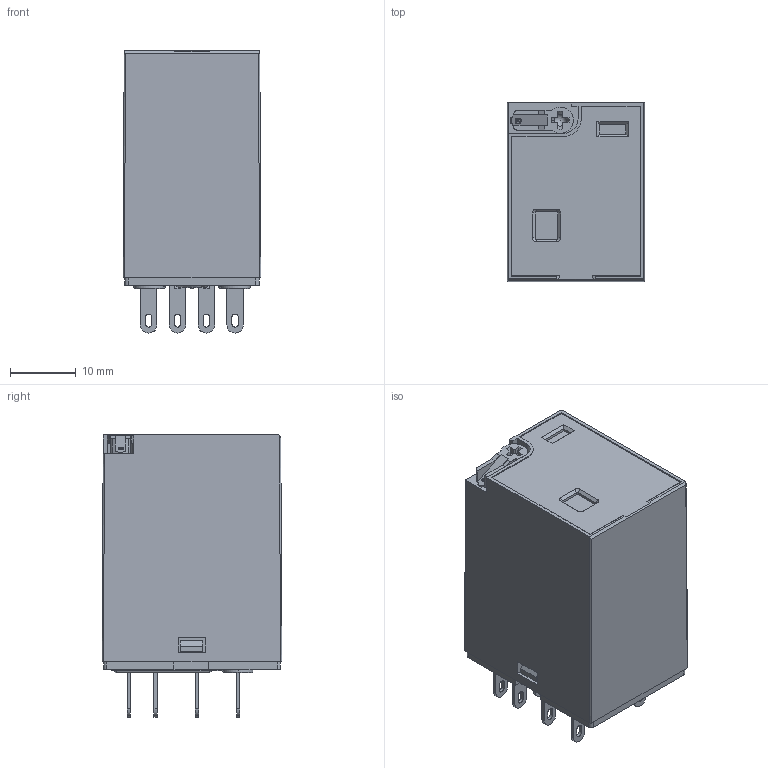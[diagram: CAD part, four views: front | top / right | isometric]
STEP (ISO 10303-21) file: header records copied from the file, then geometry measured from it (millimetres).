
FILE_DESCRIPTION (( 'STEP AP203' ), '1' );
FILE_NAME ('RKF4C 俋倛.STEP', '2023-01-14T07:16:39', ( '' ), ( '' ), 'SwSTEP 2.0', 'SolidWorks 2018', '' );
FILE_SCHEMA (( 'CONFIG_CONTROL_DESIGN' ));
Length unit declared in the file: millimetre
Products named in the file (1): RKF4C 俋倛
Bounding box: 21 x 27.4 x 43.05 mm (x, y, z)
Volume: 20176.8 mm3; surface area: 5872.5 mm2
Topology: 1 solids, 2 shells, 978 faces, 2607 edges, 1711 vertices
Faces by surface type: plane 678, bspline 150, cylinder 124, sphere 12, cone 10, torus 4
Entity records: 37090 total; most frequent: CARTESIAN_POINT 13633, ORIENTED_EDGE 5166, DIRECTION 4142, EDGE_CURVE 2583, VECTOR 1960, LINE 1960, VERTEX_POINT 1699, EDGE_LOOP 1106
